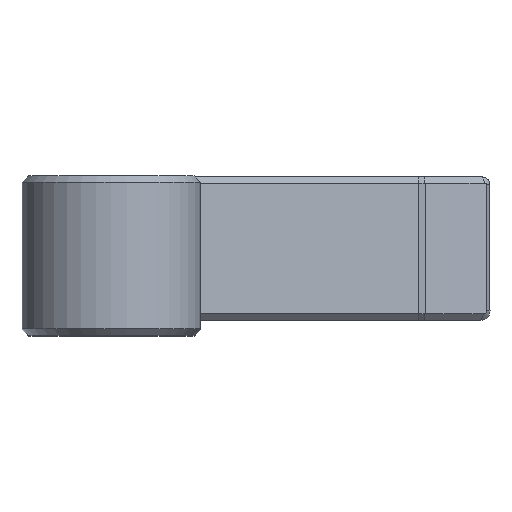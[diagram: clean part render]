
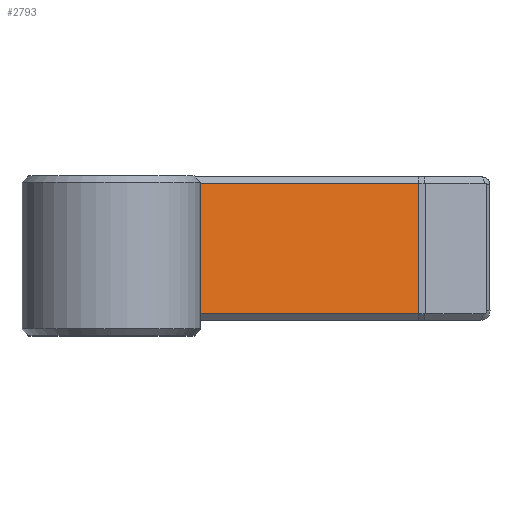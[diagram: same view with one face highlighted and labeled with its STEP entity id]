
A CAD part, top view. The second image highlights one B-rep face of the part: STEP entity #2793.
In plain terms, the highlighted planar face has unit normal (0.256, 0, 0.967).
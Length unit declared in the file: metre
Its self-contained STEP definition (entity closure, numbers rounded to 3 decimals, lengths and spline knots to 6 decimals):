
#354=LINE('',#4872,#495);
#357=LINE('',#4878,#498);
#358=LINE('',#4880,#499);
#359=LINE('',#4882,#500);
#495=VECTOR('',#3777,1.);
#498=VECTOR('',#3782,1.);
#499=VECTOR('',#3783,1.);
#500=VECTOR('',#3784,1.);
#915=ORIENTED_EDGE('',*,*,#1730,.F.);
#916=ORIENTED_EDGE('',*,*,#1733,.T.);
#917=ORIENTED_EDGE('',*,*,#1734,.F.);
#918=ORIENTED_EDGE('',*,*,#1735,.T.);
#1730=EDGE_CURVE('',#2113,#2114,#354,.T.);
#1733=EDGE_CURVE('',#2113,#2115,#357,.T.);
#1734=EDGE_CURVE('',#2116,#2115,#358,.T.);
#1735=EDGE_CURVE('',#2116,#2114,#359,.T.);
#2113=VERTEX_POINT('',#4873);
#2114=VERTEX_POINT('',#4874);
#2115=VERTEX_POINT('',#4879);
#2116=VERTEX_POINT('',#4881);
#2368=EDGE_LOOP('',(#915,#916,#917,#918));
#2566=FACE_BOUND('',#2368,.T.);
#2709=PLANE('',#3157);
#2793=ADVANCED_FACE('',(#2566),#2709,.T.);
#3157=AXIS2_PLACEMENT_3D('',#4877,#3780,#3781);
#3777=DIRECTION('',(0.,-1.,0.));
#3780=DIRECTION('',(0.256,0.,0.967));
#3781=DIRECTION('',(0.967,0.,-0.256));
#3782=DIRECTION('',(-0.967,0.,0.256));
#3783=DIRECTION('',(0.,1.,0.));
#3784=DIRECTION('',(0.967,0.,-0.256));
#4872=CARTESIAN_POINT('',(0.012263,0.000002,-0.000357));
#4873=CARTESIAN_POINT('',(0.012263,-0.000254,-0.000357));
#4874=CARTESIAN_POINT('',(0.012263,-0.005461,-0.000357));
#4877=CARTESIAN_POINT('',(0.006132,0.000002,0.001265));
#4878=CARTESIAN_POINT('',(0.006132,-0.000254,0.001265));
#4879=CARTESIAN_POINT('',(0.003556,-0.000254,0.001946));
#4880=CARTESIAN_POINT('',(0.003556,0.000002,0.001946));
#4881=CARTESIAN_POINT('',(0.003556,-0.005461,0.001946));
#4882=CARTESIAN_POINT('',(0.006132,-0.005461,0.001265));
